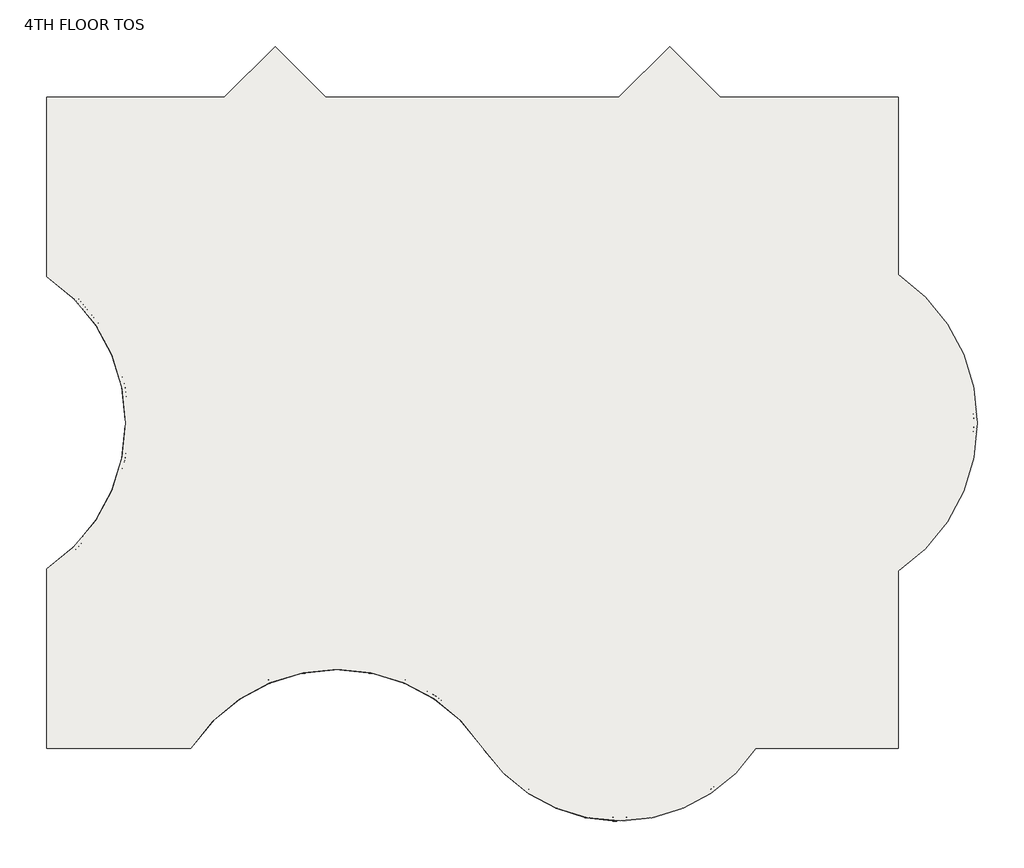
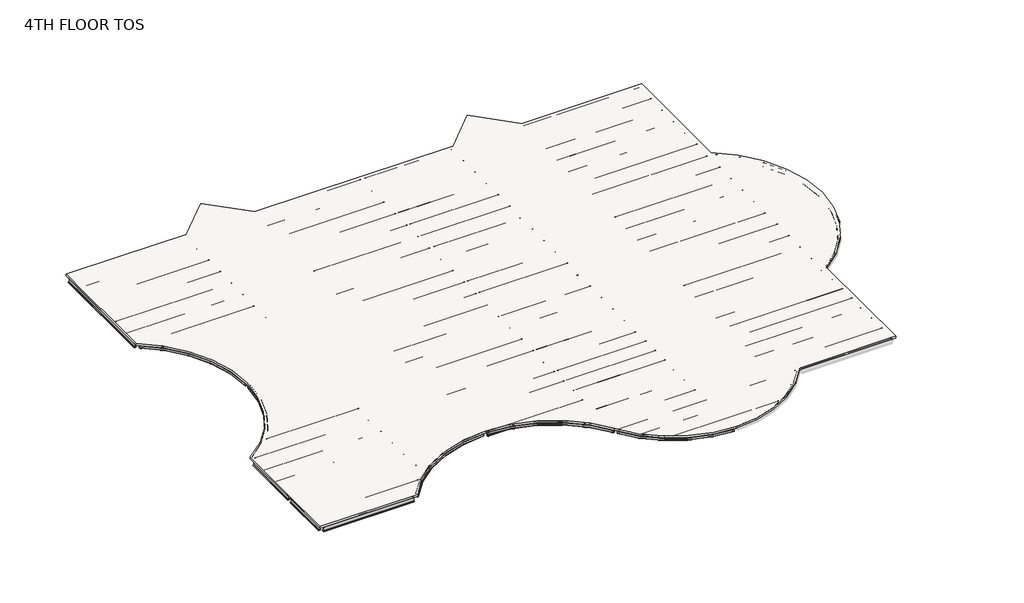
# One storey, part 1 of 2: 86 beams, 1 slab.
"""IFC4 building model written with IfcOpenShell, lengths in millimetres."""

from ifc_helpers import new_model, si_unit, frame, origin, place, context, project, spatial, polyline, circle_curve, transform, mapped, element, save
from ifc_brep_helpers import plane_surface, cylinder_surface, revolved_surface, advanced_brep
from components import m_hss_square_hss203_2x203_2x9_5_914ff4eb, m_hss_square_hss203_2x203_2x9_5_0e3d8e6e, m_hss_square_hss203_2x203_2x9_5_16dc1c03, m_hss_square_hss203_2x203_2x9_5_18346204, m_hss_square_hss203_2x203_2x9_5_d5f1e8c4, ub_universal_beams_ub254x102x28_4e7f3726, ub_universal_beams_ub305x165x40_c4d0385b, ub_universal_beams_ub305x165x40_d3abc31d, ub_universal_beams_ub305x165x40_0c73730f, ub_universal_beams_ub305x165x40_2a963f0c, ub_universal_beams_ub305x165x40_0a5f2f96, ub_universal_beams_ub305x165x40_d1f7c369, ub_universal_beams_ub305x165x40_83d7b7d5, ub_universal_beams_ub305x165x40_729a4ea5, ub_universal_beams_ub305x165x40_71dfa851, ub_universal_beams_ub305x165x40_619b5398, ub_universal_beams_ub305x165x40_c3492db1, ub_universal_beams_ub305x165x40_8f1c350d, ub_universal_beams_ub305x165x40_3afb5f90, ub_universal_beams_ub305x165x40_767d1929, ub_universal_beams_ub305x165x40_5941ca45, ub_universal_beams_ub356x171x51_ef72dcdd, ub_universal_beams_ub356x171x51_7f80702c, ub_universal_beams_ub356x171x51_dfc36663, ub_universal_beams_ub356x171x51_405a853e, ub_universal_beams_ub356x171x51_e47b7055, ub_universal_beams_ub356x171x51_e97f8d2e, ub_universal_beams_ub356x171x51_11d6b780, ub_universal_beams_ub356x171x51_76b2d20b, ub_universal_beams_ub356x171x51_145ecd4b, ub_universal_beams_ub356x171x51_c7dff8d2, ub_universal_beams_ub356x171x51_834c6e34, ub_universal_beams_ub356x171x51_a38b99de, ub_universal_beams_ub356x171x51_d8f4cdde, ub_universal_beams_ub356x171x51_8094f821, ub_universal_beams_ub356x171x51_e661f2e4, ub_universal_beams_ub356x171x51_3ee91673, ub_universal_beams_ub356x171x51_a871b283, ub_universal_beams_ub356x171x51_741bae58

model = new_model("IFC4")

# Units and contexts
model_context = context("Model", 3, world=origin())
ifc_project = project(units=[si_unit("LENGTHUNIT", "METRE", prefix="MILLI")], contexts=[model_context])

# Site, building, storey
site = spatial("IfcSite", under=ifc_project)
building = spatial("IfcBuilding", under=site)
storey = spatial("IfcBuildingStorey", under=building, Name="4TH FLOOR TOS", Elevation=18135.6)

# Beams
placement = place(None, origin())
m_hss_square_hss203_2x203_2x9_5_shape = m_hss_square_hss203_2x203_2x9_5_914ff4eb(model_context)
element("IfcBeam", 1, ObjectType="M_HSS Square : HSS203.2X203.2X9.5", at=placement, inside=storey, context=model_context, shape_type="MappedRepresentation", body=[
    mapped(m_hss_square_hss203_2x203_2x9_5_shape, transform((22710.575, 155.575, 18034.1), x_axis=(-0.552849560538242, 0.8332810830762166, 0.0), y_axis=(-0.8332810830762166, -0.552849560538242, 0.0), z_axis=(0.0, 0.0, 1.0))),
])
m_hss_square_hss203_2x203_2x9_5_2_shape = m_hss_square_hss203_2x203_2x9_5_0e3d8e6e(model_context)
element("IfcBeam", 2, ObjectType="M_HSS Square : HSS203.2X203.2X9.5", at=placement, inside=storey, context=model_context, shape_type="MappedRepresentation", body=[
    mapped(m_hss_square_hss203_2x203_2x9_5_2_shape, transform((155.575, 9299.575, 18034.1), x_axis=(0.8332810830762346, 0.5528495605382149, 0.0), y_axis=(-0.5528495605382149, 0.8332810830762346, 0.0), z_axis=(0.0, 0.0, 1.0))),
])
m_hss_square_hss203_2x203_2x9_5_3_shape = m_hss_square_hss203_2x203_2x9_5_16dc1c03(model_context)
element("IfcBeam", 3, ObjectType="M_HSS Square : HSS203.2X203.2X9.5", at=placement, inside=storey, context=model_context, shape_type="MappedRepresentation", body=[
    mapped(m_hss_square_hss203_2x203_2x9_5_3_shape, transform((155.575, 24539.575, 18034.1), x_axis=(0.8332810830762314, -0.5528495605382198, 0.0), y_axis=(0.5528495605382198, 0.8332810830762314, 0.0), z_axis=(0.0, 0.0, 1.0))),
])
m_hss_square_hss203_2x203_2x9_5_4_shape = m_hss_square_hss203_2x203_2x9_5_18346204(model_context)
element("IfcBeam", 4, ObjectType="M_HSS Square : HSS203.2X203.2X9.5", at=placement, inside=storey, context=model_context, shape_type="MappedRepresentation", body=[
    mapped(m_hss_square_hss203_2x203_2x9_5_4_shape, transform((29734.7266693, -3601.398624, 18034.1), x_axis=(-0.9999968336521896, -0.0025164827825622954, 0.0), y_axis=(0.0025164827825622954, -0.9999968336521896, 0.0), z_axis=(0.0, 0.0, 1.0))),
])
m_hss_square_hss203_2x203_2x9_5_5_shape = m_hss_square_hss203_2x203_2x9_5_d5f1e8c4(model_context)
element("IfcBeam", 5, ObjectType="M_HSS Square : HSS203.2X203.2X9.5", at=placement, inside=storey, context=model_context, shape_type="MappedRepresentation", body=[
    mapped(m_hss_square_hss203_2x203_2x9_5_5_shape, transform((15096.4572854, 4244.5731081, 18034.1), x_axis=(-0.9999997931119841, 0.0006432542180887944, 0.0), y_axis=(-0.0006432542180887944, -0.9999997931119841, 0.0), z_axis=(0.0, 0.0, 1.0))),
])
ub_universal_beams_ub254x102x28_shape = ub_universal_beams_ub254x102x28_4e7f3726(model_context)
element("IfcBeam", 6, ObjectType="UB-Universal Beams : UB254x102x28", at=placement, inside=storey, context=model_context, shape_type="MappedRepresentation", body=[
    mapped(ub_universal_beams_ub254x102x28_shape, transform((9299.575, 3210.915913, 18005.4), x_axis=(0.0, -1.0, 0.0), y_axis=(1.0, 0.0, 0.0), z_axis=(0.0, 0.0, 1.0))),
])
ub_universal_beams_ub305x165x40_shape = ub_universal_beams_ub305x165x40_c4d0385b(model_context)
element("IfcBeam", 7, ObjectType="UB-Universal Beams : UB305x165x40", at=placement, inside=storey, context=model_context, shape_type="MappedRepresentation", body=[
    mapped(ub_universal_beams_ub305x165x40_shape, transform((4727.575, 30635.575, 17983.9), x_axis=(1.0, 0.0, 0.0), y_axis=(0.0, 1.0, 0.0), z_axis=(0.0, 0.0, 1.0))),
])
element("IfcBeam", 8, ObjectType="UB-Universal Beams : UB305x165x40", at=placement, inside=storey, context=model_context, shape_type="MappedRepresentation", body=[
    mapped(ub_universal_beams_ub305x165x40_shape, transform((4727.575, 29111.575, 17983.9), x_axis=(1.0, 0.0, 0.0), y_axis=(0.0, 1.0, 0.0), z_axis=(0.0, 0.0, 1.0))),
])
element("IfcBeam", 9, ObjectType="UB-Universal Beams : UB305x165x40", at=placement, inside=storey, context=model_context, shape_type="MappedRepresentation", body=[
    mapped(ub_universal_beams_ub305x165x40_shape, transform((4727.575, 27587.575, 17983.9), x_axis=(1.0, 0.0, 0.0), y_axis=(0.0, 1.0, 0.0), z_axis=(0.0, 0.0, 1.0))),
])
element("IfcBeam", 10, ObjectType="UB-Universal Beams : UB305x165x40", at=placement, inside=storey, context=model_context, shape_type="MappedRepresentation", body=[
    mapped(ub_universal_beams_ub305x165x40_shape, transform((4727.575, 26063.575, 17983.9), x_axis=(1.0, 0.0, 0.0), y_axis=(0.0, 1.0, 0.0), z_axis=(0.0, 0.0, 1.0))),
])
element("IfcBeam", 11, ObjectType="UB-Universal Beams : UB305x165x40", at=placement, inside=storey, context=model_context, shape_type="MappedRepresentation", body=[
    mapped(ub_universal_beams_ub305x165x40_shape, transform((4727.575, 4727.575, 17983.9), x_axis=(-1.0, 0.0, 0.0), y_axis=(0.0, -1.0, 0.0), z_axis=(0.0, 0.0, 1.0))),
])
element("IfcBeam", 12, ObjectType="UB-Universal Beams : UB305x165x40", at=placement, inside=storey, context=model_context, shape_type="MappedRepresentation", body=[
    mapped(ub_universal_beams_ub305x165x40_shape, transform((4727.575, 6251.575, 17983.9), x_axis=(-1.0, 0.0, 0.0), y_axis=(0.0, -1.0, 0.0), z_axis=(0.0, 0.0, 1.0))),
])
element("IfcBeam", 13, ObjectType="UB-Universal Beams : UB305x165x40", at=placement, inside=storey, context=model_context, shape_type="MappedRepresentation", body=[
    mapped(ub_universal_beams_ub305x165x40_shape, transform((4727.575, 7775.575, 17983.9), x_axis=(-1.0, 0.0, 0.0), y_axis=(0.0, -1.0, 0.0), z_axis=(0.0, 0.0, 1.0))),
])
ub_universal_beams_ub305x165x40_2_shape = ub_universal_beams_ub305x165x40_d3abc31d(model_context)
element("IfcBeam", 14, ObjectType="UB-Universal Beams : UB305x165x40", at=placement, inside=storey, context=model_context, shape_type="MappedRepresentation", body=[
    mapped(ub_universal_beams_ub305x165x40_2_shape, transform((11885.575, 28938.325, 17983.9), x_axis=(1.0, 0.0, 0.0), y_axis=(0.0, 1.0, 0.0), z_axis=(0.0, 0.0, 1.0))),
])
element("IfcBeam", 15, ObjectType="UB-Universal Beams : UB305x165x40", at=placement, inside=storey, context=model_context, shape_type="MappedRepresentation", body=[
    mapped(ub_universal_beams_ub305x165x40_2_shape, transform((11885.575, 27472.075, 17983.9), x_axis=(1.0, 0.0, 0.0), y_axis=(0.0, 1.0, 0.0), z_axis=(0.0, 0.0, 1.0))),
])
element("IfcBeam", 16, ObjectType="UB-Universal Beams : UB305x165x40", at=placement, inside=storey, context=model_context, shape_type="MappedRepresentation", body=[
    mapped(ub_universal_beams_ub305x165x40_2_shape, transform((11885.575, 26005.825, 17983.9), x_axis=(1.0, 0.0, 0.0), y_axis=(0.0, 1.0, 0.0), z_axis=(0.0, 0.0, 1.0))),
])
element("IfcBeam", 17, ObjectType="UB-Universal Beams : UB305x165x40", at=placement, inside=storey, context=model_context, shape_type="MappedRepresentation", body=[
    mapped(ub_universal_beams_ub305x165x40_2_shape, transform((11885.575, 23015.575, 17983.9), x_axis=(1.0, 0.0, 0.0), y_axis=(0.0, 1.0, 0.0), z_axis=(0.0, 0.0, 1.0))),
])
element("IfcBeam", 18, ObjectType="UB-Universal Beams : UB305x165x40", at=placement, inside=storey, context=model_context, shape_type="MappedRepresentation", body=[
    mapped(ub_universal_beams_ub305x165x40_2_shape, transform((11885.575, 21491.575, 17983.9), x_axis=(1.0, 0.0, 0.0), y_axis=(0.0, 1.0, 0.0), z_axis=(0.0, 0.0, 1.0))),
])
element("IfcBeam", 19, ObjectType="UB-Universal Beams : UB305x165x40", at=placement, inside=storey, context=model_context, shape_type="MappedRepresentation", body=[
    mapped(ub_universal_beams_ub305x165x40_2_shape, transform((11885.575, 19967.575, 17983.9), x_axis=(1.0, 0.0, 0.0), y_axis=(0.0, 1.0, 0.0), z_axis=(0.0, 0.0, 1.0))),
])
element("IfcBeam", 20, ObjectType="UB-Universal Beams : UB305x165x40", at=placement, inside=storey, context=model_context, shape_type="MappedRepresentation", body=[
    mapped(ub_universal_beams_ub305x165x40_2_shape, transform((11885.575, 18443.575, 17983.9), x_axis=(1.0, 0.0, 0.0), y_axis=(0.0, 1.0, 0.0), z_axis=(0.0, 0.0, 1.0))),
])
element("IfcBeam", 21, ObjectType="UB-Universal Beams : UB305x165x40", at=placement, inside=storey, context=model_context, shape_type="MappedRepresentation", body=[
    mapped(ub_universal_beams_ub305x165x40_2_shape, transform((11885.575, 15395.575, 17983.9), x_axis=(1.0, 0.0, 0.0), y_axis=(0.0, 1.0, 0.0), z_axis=(0.0, 0.0, 1.0))),
])
element("IfcBeam", 22, ObjectType="UB-Universal Beams : UB305x165x40", at=placement, inside=storey, context=model_context, shape_type="MappedRepresentation", body=[
    mapped(ub_universal_beams_ub305x165x40_2_shape, transform((11885.575, 13871.575, 17983.9), x_axis=(1.0, 0.0, 0.0), y_axis=(0.0, 1.0, 0.0), z_axis=(0.0, 0.0, 1.0))),
])
element("IfcBeam", 23, ObjectType="UB-Universal Beams : UB305x165x40", at=placement, inside=storey, context=model_context, shape_type="MappedRepresentation", body=[
    mapped(ub_universal_beams_ub305x165x40_2_shape, transform((11885.575, 12347.575, 17983.9), x_axis=(1.0, 0.0, 0.0), y_axis=(0.0, 1.0, 0.0), z_axis=(0.0, 0.0, 1.0))),
])
element("IfcBeam", 24, ObjectType="UB-Universal Beams : UB305x165x40", at=placement, inside=storey, context=model_context, shape_type="MappedRepresentation", body=[
    mapped(ub_universal_beams_ub305x165x40_2_shape, transform((11885.575, 10823.575, 17983.9), x_axis=(1.0, 0.0, 0.0), y_axis=(0.0, 1.0, 0.0), z_axis=(0.0, 0.0, 1.0))),
])
element("IfcBeam", 25, ObjectType="UB-Universal Beams : UB305x165x40", at=placement, inside=storey, context=model_context, shape_type="MappedRepresentation", body=[
    mapped(ub_universal_beams_ub305x165x40_2_shape, transform((11885.575, 5026.1840956, 17983.9), x_axis=(-1.0, 0.0, 0.0), y_axis=(0.0, -1.0, 0.0), z_axis=(0.0, 0.0, 1.0))),
])
element("IfcBeam", 26, ObjectType="UB-Universal Beams : UB305x165x40", at=placement, inside=storey, context=model_context, shape_type="MappedRepresentation", body=[
    mapped(ub_universal_beams_ub305x165x40_2_shape, transform((11885.575, 6450.6477304, 17983.9), x_axis=(-1.0, 0.0, 0.0), y_axis=(0.0, -1.0, 0.0), z_axis=(0.0, 0.0, 1.0))),
])
element("IfcBeam", 27, ObjectType="UB-Universal Beams : UB305x165x40", at=placement, inside=storey, context=model_context, shape_type="MappedRepresentation", body=[
    mapped(ub_universal_beams_ub305x165x40_2_shape, transform((11885.575, 7875.1113652, 17983.9), x_axis=(-1.0, 0.0, 0.0), y_axis=(0.0, -1.0, 0.0), z_axis=(0.0, 0.0, 1.0))),
])
ub_universal_beams_ub305x165x40_3_shape = ub_universal_beams_ub305x165x40_0c73730f(model_context)
element("IfcBeam", 28, ObjectType="UB-Universal Beams : UB305x165x40", at=placement, inside=storey, context=model_context, shape_type="MappedRepresentation", body=[
    mapped(ub_universal_beams_ub305x165x40_3_shape, transform((18591.075, 5492.5943214, 17983.9), x_axis=(-1.0, 0.0, 0.0), y_axis=(0.0, -1.0, 0.0), z_axis=(0.0, 0.0, 1.0))),
])
element("IfcBeam", 29, ObjectType="UB-Universal Beams : UB305x165x40", at=placement, inside=storey, context=model_context, shape_type="MappedRepresentation", body=[
    mapped(ub_universal_beams_ub305x165x40_3_shape, transform((18591.075, 6761.5878809, 17983.9), x_axis=(-1.0, 0.0, 0.0), y_axis=(0.0, -1.0, 0.0), z_axis=(0.0, 0.0, 1.0))),
])
element("IfcBeam", 30, ObjectType="UB-Universal Beams : UB305x165x40", at=placement, inside=storey, context=model_context, shape_type="MappedRepresentation", body=[
    mapped(ub_universal_beams_ub305x165x40_3_shape, transform((18591.075, 8030.5814405, 17983.9), x_axis=(-1.0, 0.0, 0.0), y_axis=(0.0, -1.0, 0.0), z_axis=(0.0, 0.0, 1.0))),
])
element("IfcBeam", 31, ObjectType="UB-Universal Beams : UB305x165x40", at=placement, inside=storey, context=model_context, shape_type="MappedRepresentation", body=[
    mapped(ub_universal_beams_ub305x165x40_3_shape, transform((18591.075, 15395.575, 17983.9), x_axis=(1.0, 0.0, 0.0), y_axis=(0.0, 1.0, 0.0), z_axis=(0.0, 0.0, 1.0))),
])
element("IfcBeam", 32, ObjectType="UB-Universal Beams : UB305x165x40", at=placement, inside=storey, context=model_context, shape_type="MappedRepresentation", body=[
    mapped(ub_universal_beams_ub305x165x40_3_shape, transform((18591.075, 13871.575, 17983.9), x_axis=(1.0, 0.0, 0.0), y_axis=(0.0, 1.0, 0.0), z_axis=(0.0, 0.0, 1.0))),
])
element("IfcBeam", 33, ObjectType="UB-Universal Beams : UB305x165x40", at=placement, inside=storey, context=model_context, shape_type="MappedRepresentation", body=[
    mapped(ub_universal_beams_ub305x165x40_3_shape, transform((18591.075, 12347.575, 17983.9), x_axis=(1.0, 0.0, 0.0), y_axis=(0.0, 1.0, 0.0), z_axis=(0.0, 0.0, 1.0))),
])
element("IfcBeam", 34, ObjectType="UB-Universal Beams : UB305x165x40", at=placement, inside=storey, context=model_context, shape_type="MappedRepresentation", body=[
    mapped(ub_universal_beams_ub305x165x40_3_shape, transform((18591.075, 10823.575, 17983.9), x_axis=(1.0, 0.0, 0.0), y_axis=(0.0, 1.0, 0.0), z_axis=(0.0, 0.0, 1.0))),
])
ub_universal_beams_ub305x165x40_4_shape = ub_universal_beams_ub305x165x40_2a963f0c(model_context)
element("IfcBeam", 35, ObjectType="UB-Universal Beams : UB305x165x40", at=placement, inside=storey, context=model_context, shape_type="MappedRepresentation", body=[
    mapped(ub_universal_beams_ub305x165x40_4_shape, transform((26211.075, 15395.575, 17983.9), x_axis=(1.0, 0.0, 0.0), y_axis=(0.0, 1.0, 0.0), z_axis=(0.0, 0.0, 1.0))),
])
element("IfcBeam", 36, ObjectType="UB-Universal Beams : UB305x165x40", at=placement, inside=storey, context=model_context, shape_type="MappedRepresentation", body=[
    mapped(ub_universal_beams_ub305x165x40_4_shape, transform((26211.075, 13871.575, 17983.9), x_axis=(1.0, 0.0, 0.0), y_axis=(0.0, 1.0, 0.0), z_axis=(0.0, 0.0, 1.0))),
])
element("IfcBeam", 37, ObjectType="UB-Universal Beams : UB305x165x40", at=placement, inside=storey, context=model_context, shape_type="MappedRepresentation", body=[
    mapped(ub_universal_beams_ub305x165x40_4_shape, transform((26211.075, 12347.575, 17983.9), x_axis=(1.0, 0.0, 0.0), y_axis=(0.0, 1.0, 0.0), z_axis=(0.0, 0.0, 1.0))),
])
element("IfcBeam", 38, ObjectType="UB-Universal Beams : UB305x165x40", at=placement, inside=storey, context=model_context, shape_type="MappedRepresentation", body=[
    mapped(ub_universal_beams_ub305x165x40_4_shape, transform((26211.075, 10823.575, 17983.9), x_axis=(1.0, 0.0, 0.0), y_axis=(0.0, 1.0, 0.0), z_axis=(0.0, 0.0, 1.0))),
])
element("IfcBeam", 39, ObjectType="UB-Universal Beams : UB305x165x40", at=placement, inside=storey, context=model_context, shape_type="MappedRepresentation", body=[
    mapped(ub_universal_beams_ub305x165x40_4_shape, transform((26211.075, 5508.325, 17983.9), x_axis=(-1.0, 0.0, 0.0), y_axis=(0.0, -1.0, 0.0), z_axis=(0.0, 0.0, 1.0))),
])
element("IfcBeam", 40, ObjectType="UB-Universal Beams : UB305x165x40", at=placement, inside=storey, context=model_context, shape_type="MappedRepresentation", body=[
    mapped(ub_universal_beams_ub305x165x40_4_shape, transform((26211.075, 6772.075, 17983.9), x_axis=(-1.0, 0.0, 0.0), y_axis=(0.0, -1.0, 0.0), z_axis=(0.0, 0.0, 1.0))),
])
element("IfcBeam", 41, ObjectType="UB-Universal Beams : UB305x165x40", at=placement, inside=storey, context=model_context, shape_type="MappedRepresentation", body=[
    mapped(ub_universal_beams_ub305x165x40_4_shape, transform((26211.075, 8035.825, 17983.9), x_axis=(-1.0, 0.0, 0.0), y_axis=(0.0, -1.0, 0.0), z_axis=(0.0, 0.0, 1.0))),
])
element("IfcBeam", 42, ObjectType="UB-Universal Beams : UB305x165x40", at=placement, inside=storey, context=model_context, shape_type="MappedRepresentation", body=[
    mapped(ub_universal_beams_ub305x165x40_4_shape, transform((26211.075, 1518.575, 17983.9), x_axis=(-1.0, 0.0, 0.0), y_axis=(0.0, -1.0, 0.0), z_axis=(0.0, 0.0, 1.0))),
])
element("IfcBeam", 43, ObjectType="UB-Universal Beams : UB305x165x40", at=placement, inside=storey, context=model_context, shape_type="MappedRepresentation", body=[
    mapped(ub_universal_beams_ub305x165x40_4_shape, transform((26211.075, 2881.575, 17983.9), x_axis=(-1.0, 0.0, 0.0), y_axis=(0.0, -1.0, 0.0), z_axis=(0.0, 0.0, 1.0))),
])
ub_universal_beams_ub305x165x40_5_shape = ub_universal_beams_ub305x165x40_0a5f2f96(model_context)
element("IfcBeam", 44, ObjectType="UB-Universal Beams : UB305x165x40", at=placement, inside=storey, context=model_context, shape_type="MappedRepresentation", body=[
    mapped(ub_universal_beams_ub305x165x40_5_shape, transform((29713.575, -2349.0918253, 17983.9), x_axis=(-1.0, 0.0, 0.0), y_axis=(0.0, -1.0, 0.0), z_axis=(0.0, 0.0, 1.0))),
])
ub_universal_beams_ub305x165x40_6_shape = ub_universal_beams_ub305x165x40_d1f7c369(model_context)
element("IfcBeam", 45, ObjectType="UB-Universal Beams : UB305x165x40", at=placement, inside=storey, context=model_context, shape_type="MappedRepresentation", body=[
    mapped(ub_universal_beams_ub305x165x40_6_shape, transform((29713.575, -1096.7584126, 17983.9), x_axis=(-1.0, 0.0, 0.0), y_axis=(0.0, -1.0, 0.0), z_axis=(0.0, 0.0, 1.0))),
])
ub_universal_beams_ub305x165x40_7_shape = ub_universal_beams_ub305x165x40_83d7b7d5(model_context)
element("IfcBeam", 46, ObjectType="UB-Universal Beams : UB305x165x40", at=placement, inside=storey, context=model_context, shape_type="MappedRepresentation", body=[
    mapped(ub_universal_beams_ub305x165x40_7_shape, transform((22157.3041106, 1518.575, 17983.9), x_axis=(-1.0, 0.0, 0.0), y_axis=(0.0, -1.0, 0.0), z_axis=(0.0, 0.0, 1.0))),
])
ub_universal_beams_ub305x165x40_8_shape = ub_universal_beams_ub305x165x40_729a4ea5(model_context)
element("IfcBeam", 47, ObjectType="UB-Universal Beams : UB305x165x40", at=placement, inside=storey, context=model_context, shape_type="MappedRepresentation", body=[
    mapped(ub_universal_beams_ub305x165x40_8_shape, transform((21302.1545844, 2881.575, 17983.9), x_axis=(-1.0, 0.0, 0.0), y_axis=(0.0, -1.0, 0.0), z_axis=(0.0, 0.0, 1.0))),
])
ub_universal_beams_ub305x165x40_9_shape = ub_universal_beams_ub305x165x40_71dfa851(model_context)
element("IfcBeam", 48, ObjectType="UB-Universal Beams : UB305x165x40", at=placement, inside=storey, context=model_context, shape_type="MappedRepresentation", body=[
    mapped(ub_universal_beams_ub305x165x40_9_shape, transform((10511.0323166, 3601.7204608, 17983.9), x_axis=(-1.0, 0.0, 0.0), y_axis=(0.0, -1.0, 0.0), z_axis=(0.0, 0.0, 1.0))),
])
ub_universal_beams_ub305x165x40_10_shape = ub_universal_beams_ub305x165x40_619b5398(model_context)
element("IfcBeam", 49, ObjectType="UB-Universal Beams : UB305x165x40", at=placement, inside=storey, context=model_context, shape_type="MappedRepresentation", body=[
    mapped(ub_universal_beams_ub305x165x40_10_shape, transform((4447.6838282, 1679.575, 17983.9), x_axis=(-1.0, 0.0, 0.0), y_axis=(0.0, -1.0, 0.0), z_axis=(0.0, 0.0, 1.0))),
])
ub_universal_beams_ub305x165x40_11_shape = ub_universal_beams_ub305x165x40_c3492db1(model_context)
element("IfcBeam", 50, ObjectType="UB-Universal Beams : UB305x165x40", at=placement, inside=storey, context=model_context, shape_type="MappedRepresentation", body=[
    mapped(ub_universal_beams_ub305x165x40_11_shape, transform((4727.575, 3203.575, 17983.9), x_axis=(-1.0, 0.0, 0.0), y_axis=(0.0, -1.0, 0.0), z_axis=(0.0, 0.0, 1.0))),
])
ub_universal_beams_ub305x165x40_12_shape = ub_universal_beams_ub305x165x40_8f1c350d(model_context)
element("IfcBeam", 51, ObjectType="UB-Universal Beams : UB305x165x40", at=placement, inside=storey, context=model_context, shape_type="MappedRepresentation", body=[
    mapped(ub_universal_beams_ub305x165x40_12_shape, transform((6708.1318611, 15395.575, 17983.9), x_axis=(1.0, 0.0, 0.0), y_axis=(0.0, 1.0, 0.0), z_axis=(0.0, 0.0, 1.0))),
])
element("IfcBeam", 52, ObjectType="UB-Universal Beams : UB305x165x40", at=placement, inside=storey, context=model_context, shape_type="MappedRepresentation", body=[
    mapped(ub_universal_beams_ub305x165x40_12_shape, transform((6708.1318611, 18443.575, 17983.9), x_axis=(1.0, 0.0, 0.0), y_axis=(0.0, 1.0, 0.0), z_axis=(0.0, 0.0, 1.0))),
])
ub_universal_beams_ub305x165x40_13_shape = ub_universal_beams_ub305x165x40_3afb5f90(model_context)
element("IfcBeam", 53, ObjectType="UB-Universal Beams : UB305x165x40", at=placement, inside=storey, context=model_context, shape_type="MappedRepresentation", body=[
    mapped(ub_universal_beams_ub305x165x40_13_shape, transform((6510.6153272, 13871.575, 17983.9), x_axis=(1.0, 0.0, 0.0), y_axis=(0.0, 1.0, 0.0), z_axis=(0.0, 0.0, 1.0))),
])
element("IfcBeam", 54, ObjectType="UB-Universal Beams : UB305x165x40", at=placement, inside=storey, context=model_context, shape_type="MappedRepresentation", body=[
    mapped(ub_universal_beams_ub305x165x40_13_shape, transform((6510.6153272, 19967.575, 17983.9), x_axis=(1.0, 0.0, 0.0), y_axis=(0.0, 1.0, 0.0), z_axis=(0.0, 0.0, 1.0))),
])
ub_universal_beams_ub305x165x40_14_shape = ub_universal_beams_ub305x165x40_767d1929(model_context)
element("IfcBeam", 55, ObjectType="UB-Universal Beams : UB305x165x40", at=placement, inside=storey, context=model_context, shape_type="MappedRepresentation", body=[
    mapped(ub_universal_beams_ub305x165x40_14_shape, transform((6159.5874928, 12347.575, 17983.9), x_axis=(1.0, 0.0, 0.0), y_axis=(0.0, 1.0, 0.0), z_axis=(0.0, 0.0, 1.0))),
])
element("IfcBeam", 56, ObjectType="UB-Universal Beams : UB305x165x40", at=placement, inside=storey, context=model_context, shape_type="MappedRepresentation", body=[
    mapped(ub_universal_beams_ub305x165x40_14_shape, transform((6159.5874928, 21491.575, 17983.9), x_axis=(1.0, 0.0, 0.0), y_axis=(0.0, 1.0, 0.0), z_axis=(0.0, 0.0, 1.0))),
])
ub_universal_beams_ub305x165x40_15_shape = ub_universal_beams_ub305x165x40_5941ca45(model_context)
element("IfcBeam", 57, ObjectType="UB-Universal Beams : UB305x165x40", at=placement, inside=storey, context=model_context, shape_type="MappedRepresentation", body=[
    mapped(ub_universal_beams_ub305x165x40_15_shape, transform((5607.9405309, 10823.575, 17983.9), x_axis=(1.0, 0.0, 0.0), y_axis=(0.0, 1.0, 0.0), z_axis=(0.0, 0.0, 1.0))),
])
element("IfcBeam", 58, ObjectType="UB-Universal Beams : UB305x165x40", at=placement, inside=storey, context=model_context, shape_type="MappedRepresentation", body=[
    mapped(ub_universal_beams_ub305x165x40_15_shape, transform((5607.9405309, 23015.575, 17983.9), x_axis=(1.0, 0.0, 0.0), y_axis=(0.0, 1.0, 0.0), z_axis=(0.0, 0.0, 1.0))),
])
ub_universal_beams_ub356x171x51_shape = ub_universal_beams_ub356x171x51_ef72dcdd(model_context)
element("IfcBeam", 59, ObjectType="UB-Universal Beams : UB356x171x51", at=placement, inside=storey, context=model_context, shape_type="MappedRepresentation", body=[
    mapped(ub_universal_beams_ub356x171x51_shape, transform((9299.575, 6772.075, 17958.1), x_axis=(0.0, -1.0, 0.0), y_axis=(1.0, 0.0, 0.0), z_axis=(0.0, 0.0, 1.0))),
])
element("IfcBeam", 60, ObjectType="UB-Universal Beams : UB356x171x51", at=placement, inside=storey, context=model_context, shape_type="MappedRepresentation", body=[
    mapped(ub_universal_beams_ub356x171x51_shape, transform((29711.575, 6772.075, 17958.1), x_axis=(0.0, 1.0, 0.0), y_axis=(-1.0, 0.0, 0.0), z_axis=(0.0, 0.0, 1.0))),
])
element("IfcBeam", 61, ObjectType="UB-Universal Beams : UB356x171x51", at=placement, inside=storey, context=model_context, shape_type="MappedRepresentation", body=[
    mapped(ub_universal_beams_ub356x171x51_shape, transform((22710.575, 6772.075, 17958.1), x_axis=(0.0, -1.0, 0.0), y_axis=(1.0, 0.0, 0.0), z_axis=(0.0, 0.0, 1.0))),
])
ub_universal_beams_ub356x171x51_2_shape = ub_universal_beams_ub356x171x51_7f80702c(model_context)
element("IfcBeam", 62, ObjectType="UB-Universal Beams : UB356x171x51", at=placement, inside=storey, context=model_context, shape_type="MappedRepresentation", body=[
    mapped(ub_universal_beams_ub356x171x51_2_shape, transform((3813.075, 155.575, 17958.1), x_axis=(-1.0, 0.0, 0.0), y_axis=(0.0, -1.0, 0.0), z_axis=(0.0, 0.0, 1.0))),
])
ub_universal_beams_ub356x171x51_3_shape = ub_universal_beams_ub356x171x51_dfc36663(model_context)
element("IfcBeam", 63, ObjectType="UB-Universal Beams : UB356x171x51", at=placement, inside=storey, context=model_context, shape_type="MappedRepresentation", body=[
    mapped(ub_universal_beams_ub356x171x51_3_shape, transform((155.575, 2200.075, 17958.1), x_axis=(0.0, 1.0, 0.0), y_axis=(-1.0, 0.0, 0.0), z_axis=(0.0, 0.0, 1.0))),
])
ub_universal_beams_ub356x171x51_4_shape = ub_universal_beams_ub356x171x51_405a853e(model_context)
element("IfcBeam", 64, ObjectType="UB-Universal Beams : UB356x171x51", at=placement, inside=storey, context=model_context, shape_type="MappedRepresentation", body=[
    mapped(ub_universal_beams_ub356x171x51_4_shape, transform((155.575, 6772.075, 17958.1), x_axis=(0.0, 1.0, 0.0), y_axis=(-1.0, 0.0, 0.0), z_axis=(0.0, 0.0, 1.0))),
])
ub_universal_beams_ub356x171x51_5_shape = ub_universal_beams_ub356x171x51_e47b7055(model_context)
element("IfcBeam", 65, ObjectType="UB-Universal Beams : UB356x171x51", at=placement, inside=storey, context=model_context, shape_type="MappedRepresentation", body=[
    mapped(ub_universal_beams_ub356x171x51_5_shape, transform((155.575, 29111.575, 17958.1), x_axis=(0.0, 1.0, 0.0), y_axis=(-1.0, 0.0, 0.0), z_axis=(0.0, 0.0, 1.0))),
])
ub_universal_beams_ub356x171x51_6_shape = ub_universal_beams_ub356x171x51_e97f8d2e(model_context)
element("IfcBeam", 66, ObjectType="UB-Universal Beams : UB356x171x51", at=placement, inside=storey, context=model_context, shape_type="MappedRepresentation", body=[
    mapped(ub_universal_beams_ub356x171x51_6_shape, transform((4727.575, 24539.575, 17958.1), x_axis=(1.0, 0.0, 0.0), y_axis=(0.0, 1.0, 0.0), z_axis=(0.0, 0.0, 1.0))),
])
ub_universal_beams_ub356x171x51_7_shape = ub_universal_beams_ub356x171x51_11d6b780(model_context)
element("IfcBeam", 67, ObjectType="UB-Universal Beams : UB356x171x51", at=placement, inside=storey, context=model_context, shape_type="MappedRepresentation", body=[
    mapped(ub_universal_beams_ub356x171x51_7_shape, transform((11885.575, 24539.575, 17958.1), x_axis=(1.0, 0.0, 0.0), y_axis=(0.0, 1.0, 0.0), z_axis=(0.0, 0.0, 1.0))),
])
element("IfcBeam", 68, ObjectType="UB-Universal Beams : UB356x171x51", at=placement, inside=storey, context=model_context, shape_type="MappedRepresentation", body=[
    mapped(ub_universal_beams_ub356x171x51_7_shape, transform((11885.575, 9299.575, 17958.1), x_axis=(-1.0, 0.0, 0.0), y_axis=(0.0, -1.0, 0.0), z_axis=(0.0, 0.0, 1.0))),
])
element("IfcBeam", 69, ObjectType="UB-Universal Beams : UB356x171x51", at=placement, inside=storey, context=model_context, shape_type="MappedRepresentation", body=[
    mapped(ub_universal_beams_ub356x171x51_7_shape, transform((11885.575, 16919.575, 17958.1), x_axis=(1.0, 0.0, 0.0), y_axis=(0.0, 1.0, 0.0), z_axis=(0.0, 0.0, 1.0))),
])
ub_universal_beams_ub356x171x51_8_shape = ub_universal_beams_ub356x171x51_76b2d20b(model_context)
element("IfcBeam", 70, ObjectType="UB-Universal Beams : UB356x171x51", at=placement, inside=storey, context=model_context, shape_type="MappedRepresentation", body=[
    mapped(ub_universal_beams_ub356x171x51_8_shape, transform((18591.075, 9299.575, 17958.1), x_axis=(-1.0, 0.0, 0.0), y_axis=(0.0, -1.0, 0.0), z_axis=(0.0, 0.0, 1.0))),
])
ub_universal_beams_ub356x171x51_9_shape = ub_universal_beams_ub356x171x51_145ecd4b(model_context)
element("IfcBeam", 71, ObjectType="UB-Universal Beams : UB356x171x51", at=placement, inside=storey, context=model_context, shape_type="MappedRepresentation", body=[
    mapped(ub_universal_beams_ub356x171x51_9_shape, transform((26211.075, 9299.575, 17958.1), x_axis=(-1.0, 0.0, 0.0), y_axis=(0.0, -1.0, 0.0), z_axis=(0.0, 0.0, 1.0))),
])
element("IfcBeam", 72, ObjectType="UB-Universal Beams : UB356x171x51", at=placement, inside=storey, context=model_context, shape_type="MappedRepresentation", body=[
    mapped(ub_universal_beams_ub356x171x51_9_shape, transform((26211.075, 4244.575, 17958.1), x_axis=(-1.0, 0.0, 0.0), y_axis=(0.0, -1.0, 0.0), z_axis=(0.0, 0.0, 1.0))),
])
ub_universal_beams_ub356x171x51_10_shape = ub_universal_beams_ub356x171x51_c7dff8d2(model_context)
element("IfcBeam", 73, ObjectType="UB-Universal Beams : UB356x171x51", at=placement, inside=storey, context=model_context, shape_type="MappedRepresentation", body=[
    mapped(ub_universal_beams_ub356x171x51_10_shape, transform((4727.575, 9299.575, 17958.1), x_axis=(-1.0, 0.0, 0.0), y_axis=(0.0, -1.0, 0.0), z_axis=(0.0, 0.0, 1.0))),
])
ub_universal_beams_ub356x171x51_11_shape = ub_universal_beams_ub356x171x51_834c6e34(model_context)
element("IfcBeam", 74, ObjectType="UB-Universal Beams : UB356x171x51", at=placement, inside=storey, context=model_context, shape_type="MappedRepresentation", body=[
    mapped(ub_universal_beams_ub356x171x51_11_shape, transform((14471.575, 6761.5878809, 17958.1), x_axis=(0.0, -1.0, 0.0), y_axis=(1.0, 0.0, 0.0), z_axis=(0.0, 0.0, 1.0))),
])
ub_universal_beams_ub356x171x51_12_shape = ub_universal_beams_ub356x171x51_a38b99de(model_context)
element("IfcBeam", 75, ObjectType="UB-Universal Beams : UB356x171x51", at=placement, inside=storey, context=model_context, shape_type="MappedRepresentation", body=[
    mapped(ub_universal_beams_ub356x171x51_12_shape, transform((9299.575, 13109.575, 17958.1), x_axis=(0.0, 1.0, 0.0), y_axis=(-1.0, 0.0, 0.0), z_axis=(0.0, 0.0, 1.0))),
])
element("IfcBeam", 76, ObjectType="UB-Universal Beams : UB356x171x51", at=placement, inside=storey, context=model_context, shape_type="MappedRepresentation", body=[
    mapped(ub_universal_beams_ub356x171x51_12_shape, transform((9299.575, 20729.575, 17958.1), x_axis=(0.0, 1.0, 0.0), y_axis=(-1.0, 0.0, 0.0), z_axis=(0.0, 0.0, 1.0))),
])
element("IfcBeam", 77, ObjectType="UB-Universal Beams : UB356x171x51", at=placement, inside=storey, context=model_context, shape_type="MappedRepresentation", body=[
    mapped(ub_universal_beams_ub356x171x51_12_shape, transform((14471.575, 20729.575, 17958.1), x_axis=(0.0, -1.0, 0.0), y_axis=(1.0, 0.0, 0.0), z_axis=(0.0, 0.0, 1.0))),
])
element("IfcBeam", 78, ObjectType="UB-Universal Beams : UB356x171x51", at=placement, inside=storey, context=model_context, shape_type="MappedRepresentation", body=[
    mapped(ub_universal_beams_ub356x171x51_12_shape, transform((14471.575, 13109.575, 17958.1), x_axis=(0.0, -1.0, 0.0), y_axis=(1.0, 0.0, 0.0), z_axis=(0.0, 0.0, 1.0))),
])
element("IfcBeam", 79, ObjectType="UB-Universal Beams : UB356x171x51", at=placement, inside=storey, context=model_context, shape_type="MappedRepresentation", body=[
    mapped(ub_universal_beams_ub356x171x51_12_shape, transform((22710.575, 13109.575, 17958.1), x_axis=(0.0, -1.0, 0.0), y_axis=(1.0, 0.0, 0.0), z_axis=(0.0, 0.0, 1.0))),
])
element("IfcBeam", 80, ObjectType="UB-Universal Beams : UB356x171x51", at=placement, inside=storey, context=model_context, shape_type="MappedRepresentation", body=[
    mapped(ub_universal_beams_ub356x171x51_12_shape, transform((29711.575, 13109.575, 17958.1), x_axis=(0.0, 1.0, 0.0), y_axis=(-1.0, 0.0, 0.0), z_axis=(0.0, 0.0, 1.0))),
])
ub_universal_beams_ub356x171x51_13_shape = ub_universal_beams_ub356x171x51_d8f4cdde(model_context)
element("IfcBeam", 81, ObjectType="UB-Universal Beams : UB356x171x51", at=placement, inside=storey, context=model_context, shape_type="MappedRepresentation", body=[
    mapped(ub_universal_beams_ub356x171x51_13_shape, transform((9299.575, 29111.575, 17958.1), x_axis=(0.0, 1.0, 0.0), y_axis=(-1.0, 0.0, 0.0), z_axis=(0.0, 0.0, 1.0))),
])
ub_universal_beams_ub356x171x51_14_shape = ub_universal_beams_ub356x171x51_8094f821(model_context)
element("IfcBeam", 82, ObjectType="UB-Universal Beams : UB356x171x51", at=placement, inside=storey, context=model_context, shape_type="MappedRepresentation", body=[
    mapped(ub_universal_beams_ub356x171x51_14_shape, transform((6772.075, 16919.575, 17958.1), x_axis=(1.0, 0.0, 0.0), y_axis=(0.0, 1.0, 0.0), z_axis=(0.0, 0.0, 1.0))),
])
ub_universal_beams_ub356x171x51_15_shape = ub_universal_beams_ub356x171x51_e661f2e4(model_context)
element("IfcBeam", 83, ObjectType="UB-Universal Beams : UB356x171x51", at=placement, inside=storey, context=model_context, shape_type="MappedRepresentation", body=[
    mapped(ub_universal_beams_ub356x171x51_15_shape, transform((29713.575, 155.575, 17958.1), x_axis=(-1.0, 0.0, 0.0), y_axis=(0.0, -1.0, 0.0), z_axis=(0.0, 0.0, 1.0))),
])
ub_universal_beams_ub356x171x51_16_shape = ub_universal_beams_ub356x171x51_3ee91673(model_context)
element("IfcBeam", 84, ObjectType="UB-Universal Beams : UB356x171x51", at=placement, inside=storey, context=model_context, shape_type="MappedRepresentation", body=[
    mapped(ub_universal_beams_ub356x171x51_16_shape, transform((18900.575, 4244.575, 17958.1), x_axis=(-1.0, 0.0, 0.0), y_axis=(0.0, -1.0, 0.0), z_axis=(0.0, 0.0, 1.0))),
])
ub_universal_beams_ub356x171x51_17_shape = ub_universal_beams_ub356x171x51_a871b283(model_context)
element("IfcBeam", 85, ObjectType="UB-Universal Beams : UB356x171x51", at=placement, inside=storey, context=model_context, shape_type="MappedRepresentation", body=[
    mapped(ub_universal_beams_ub356x171x51_17_shape, transform((22710.575, 2200.075, 17958.1), x_axis=(0.0, -1.0, 0.0), y_axis=(1.0, 0.0, 0.0), z_axis=(0.0, 0.0, 1.0))),
])
ub_universal_beams_ub356x171x51_18_shape = ub_universal_beams_ub356x171x51_741bae58(model_context)
element("IfcBeam", 86, ObjectType="UB-Universal Beams : UB356x171x51", at=placement, inside=storey, context=model_context, shape_type="MappedRepresentation", body=[
    mapped(ub_universal_beams_ub356x171x51_18_shape, transform((29711.575, 2200.075, 17958.1), x_axis=(0.0, -1.0, 0.0), y_axis=(1.0, 0.0, 0.0), z_axis=(0.0, 0.0, 1.0))),
])

# Slab
element("IfcSlab", 87, ObjectType="152mm Concrete With 50mm Metal Deck", at=placement, inside=storey, context=model_context, shape_type="AdvancedBrep", body=[
    advanced_brep(
    [(69.575, 33769.575, 18135.6), (4244.575, 33769.575, 18135.6), (9263.9526336, 33769.575, 18135.6), (11885.575, 36391.1973664, 18135.6), (14507.1973664, 33769.575, 18135.6), (22710.575, 33769.575, 18135.6), (29675.9526336, 33769.575, 18135.6), (32297.575, 36391.1973664, 18135.6), (34919.1973664, 33769.575, 18135.6), (44113.575, 33769.575, 18135.6), (44113.575, 24585.5849139, 18135.6), (44113.575, 9253.5650861, 18135.6), (44113.575, 4244.575, 18135.6), (44113.575, 69.575, 18135.6), (36762.5616677, 69.575, 18135.6), (29734.9430869, -3687.3983517, 18135.6), (22638.9224102, 108.0154965, 18135.6), (15096.4019655, 4158.5731259, 18135.6), (7516.8644167, 69.575, 18135.6), (69.575, 69.575, 18135.6), (69.575, 4244.575, 18135.6), (69.575, 9345.8644167, 18135.6), (69.575, 24493.2855833, 18135.6), (69.575, 33769.575, 18287.6), (69.575, 24493.2855833, 18287.6), (69.575, 9345.8644167, 18287.6), (69.575, 4244.575, 18287.6), (69.575, 69.575, 18287.6), (7516.8644167, 69.575, 18287.6), (15096.4019655, 4158.5731259, 18287.6), (22638.9128269, 108.0299378, 18287.6), (29734.9430869, -3687.3983517, 18287.6), (36762.5616677, 69.575, 18287.6), (44113.575, 69.575, 18287.6), (44113.575, 4244.575, 18287.6), (44113.575, 9253.5650861, 18287.6), (44113.575, 24585.5849139, 18287.6), (44113.575, 33769.575, 18287.6), (34919.1973664, 33769.575, 18287.6), (32297.575, 36391.1973664, 18287.6), (29675.9526336, 33769.575, 18287.6), (22710.575, 33769.575, 18287.6), (14507.1973664, 33769.575, 18287.6), (11885.575, 36391.1973664, 18287.6), (9263.9526336, 33769.575, 18287.6), (4244.575, 33769.575, 18287.6)],
    [
        (0, 1),
        (1, 2),
        (2, 3),
        (3, 4),
        (4, 5),
        (5, 6),
        (6, 7),
        (7, 8),
        (8, 9),
        (9, 10),
        (10, 11, circle_curve(frame((38972.0016324, 16919.575, 18135.6), z_axis=(0.0, 0.0, -1.0), x_axis=(1.0, 0.0, 0.0)), 9230.5733676)),
        (11, 12),
        (12, 13),
        (13, 14),
        (14, 15, circle_curve(frame((29713.575, 4803.825732, 18135.6), z_axis=(0.0, 0.0, -1.0), x_axis=(1.0, 0.0, 0.0)), 8491.2509699)),
        (15, 16, circle_curve(frame((29713.575, 4803.825732, 18135.6), z_axis=(0.0, 0.0, -1.0), x_axis=(1.0, 0.0, 0.0)), 8491.2509699)),
        (16, 17, circle_curve(frame((15090.575, -4899.9983676, 18135.6), z_axis=(0.0, 0.0, 1.0), x_axis=(1.0, 0.0, 0.0)), 9058.5733676)),
        (17, 18, circle_curve(frame((15090.575, -4899.9983676, 18135.6), z_axis=(0.0, 0.0, 1.0), x_axis=(1.0, 0.0, 0.0)), 9058.5733676)),
        (18, 19),
        (19, 20),
        (20, 21),
        (21, 22, circle_curve(frame((-4899.9983676, 16919.575, 18135.6), z_axis=(0.0, 0.0, 1.0), x_axis=(1.0, 0.0, 0.0)), 9058.5733676)),
        (22, 0),
        (23, 24),
        (24, 25, circle_curve(frame((-4899.9983676, 16919.575, 18287.6), z_axis=(0.0, 0.0, -1.0), x_axis=(1.0, 0.0, 0.0)), 9058.5733676)),
        (25, 26),
        (26, 27),
        (27, 28),
        (28, 29, circle_curve(frame((15090.575, -4899.9983676, 18287.6), z_axis=(0.0, 0.0, -1.0), x_axis=(1.0, 0.0, 0.0)), 9058.5733676)),
        (29, 30, circle_curve(frame((15090.575, -4899.9983676, 18287.6), z_axis=(0.0, 0.0, -1.0), x_axis=(1.0, 0.0, 0.0)), 9058.5733676)),
        (30, 31, circle_curve(frame((29713.575, 4803.825732, 18287.6), z_axis=(0.0, 0.0, 1.0), x_axis=(1.0, 0.0, 0.0)), 8491.2509699)),
        (31, 32, circle_curve(frame((29713.575, 4803.825732, 18287.6), z_axis=(0.0, 0.0, 1.0), x_axis=(1.0, 0.0, 0.0)), 8491.2509699)),
        (32, 33),
        (33, 34),
        (34, 35),
        (35, 36, circle_curve(frame((38972.0016324, 16919.575, 18287.6), z_axis=(0.0, 0.0, 1.0), x_axis=(1.0, 0.0, 0.0)), 9230.5733676)),
        (36, 37),
        (37, 38),
        (38, 39),
        (39, 40),
        (40, 41),
        (41, 42),
        (42, 43),
        (43, 44),
        (44, 45),
        (45, 23),
        (0, 23),
        (45, 1),
        (44, 2),
        (43, 3),
        (42, 4),
        (41, 5),
        (40, 6),
        (39, 7),
        (38, 8),
        (37, 9),
        (36, 10),
        (35, 11),
        (34, 12),
        (33, 13),
        (32, 14),
        (31, 15),
        (30, 16),
        (29, 17),
        (28, 18),
        (27, 19),
        (26, 20),
        (25, 21),
        (24, 22),
    ],
    [
        plane_surface(frame((155.575, 33769.575, 18135.6), z_axis=(0.0, 0.0, -1.0), x_axis=(1.0, 0.0, 0.0))),
        plane_surface(frame((155.575, 33769.575, 18287.6), z_axis=(0.0, 0.0, 1.0), x_axis=(-1.0, 0.0, 0.0))),
        plane_surface(frame((69.575, 33769.575, 18135.6), z_axis=(0.0, 1.0, 0.0), x_axis=(0.0, 0.0, 1.0))),
        plane_surface(frame((4244.575, 33769.575, 18135.6), z_axis=(0.0, 1.0, 0.0), x_axis=(0.0, 0.0, 1.0))),
        plane_surface(frame((9263.9526336, 33769.575, 18135.6), z_axis=(-0.7071067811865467, 0.7071067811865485, 0.0), x_axis=(0.0, 0.0, 1.0))),
        plane_surface(frame((11885.575, 36391.1973664, 18135.6), z_axis=(0.7071067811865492, 0.7071067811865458, 0.0), x_axis=(0.0, 0.0, 1.0))),
        plane_surface(frame((14507.1973664, 33769.575, 18135.6), z_axis=(0.0, 1.0, 0.0), x_axis=(0.0, 0.0, 1.0))),
        plane_surface(frame((22710.575, 33769.575, 18135.6), z_axis=(0.0, 1.0, 0.0), x_axis=(0.0, 0.0, 1.0))),
        plane_surface(frame((29675.9526336, 33769.575, 18135.6), z_axis=(-0.7071067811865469, 0.7071067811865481, 0.0), x_axis=(0.0, 0.0, 1.0))),
        plane_surface(frame((32297.575, 36391.1973664, 18135.6), z_axis=(0.7071067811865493, 0.7071067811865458, 0.0), x_axis=(0.0, 0.0, 1.0))),
        plane_surface(frame((34919.1973664, 33769.575, 18135.6), z_axis=(0.0, 1.0, 0.0), x_axis=(0.0, 0.0, 1.0))),
        plane_surface(frame((44113.575, 33769.575, 18135.6), z_axis=(1.0, 0.0, 0.0), x_axis=(0.0, 0.0, 1.0))),
        cylinder_surface(frame((38972.0016324, 16919.575, 18287.6), z_axis=(0.0, 0.0, -1.0), x_axis=(1.0, 0.0, 0.0)), 9230.5733676),
        plane_surface(frame((44113.575, 9253.5650861, 18135.6), z_axis=(1.0, 0.0, 0.0), x_axis=(0.0, 0.0, 1.0))),
        plane_surface(frame((44113.575, 4244.575, 18135.6), z_axis=(1.0, 0.0, 0.0), x_axis=(0.0, 0.0, 1.0))),
        plane_surface(frame((44113.575, 69.575, 18135.6), z_axis=(0.0, -1.0, 0.0), x_axis=(0.0, 0.0, 1.0))),
        cylinder_surface(frame((29713.575, 4803.825732, 18287.6), z_axis=(0.0, 0.0, -1.0), x_axis=(1.0, 0.0, 0.0)), 8491.2509699),
        revolved_surface(polyline([(24149.1483676, -4899.9983676, 18287.6), (24149.1483676, -4899.9983676, 18135.6)]), (15090.575, -4899.9983676, 18287.6), (0.0, 0.0, 1.0)),
        plane_surface(frame((7516.8644167, 69.575, 18135.6), z_axis=(0.0, -1.0, 0.0), x_axis=(0.0, 0.0, 1.0))),
        plane_surface(frame((69.575, 69.575, 18135.6), z_axis=(-1.0, 0.0, 0.0), x_axis=(0.0, 0.0, 1.0))),
        plane_surface(frame((69.575, 4244.575, 18135.6), z_axis=(-1.0, 0.0, 0.0), x_axis=(0.0, 0.0, 1.0))),
        revolved_surface(polyline([(4158.575, 16919.575, 18287.6), (4158.575, 16919.575, 18135.6)]), (-4899.9983676, 16919.575, 18287.6), (0.0, 0.0, 1.0)),
        plane_surface(frame((69.575, 24493.2855833, 18135.6), z_axis=(-1.0, 0.0, 0.0), x_axis=(0.0, 0.0, 1.0))),
    ],
    [
        (0, [[1, 2, 3, 4, 5, 6, 7, 8, 9, 10, 11, 12, 13, 14, 15, 16, 17, 18, 19, 20, 21, 22, 23]]),
        (1, [[24, 25, 26, 27, 28, 29, 30, 31, 32, 33, 34, 35, 36, 37, 38, 39, 40, 41, 42, 43, 44, 45, 46]]),
        (2, [[-1, 47, -46, 48]]),
        (3, [[-2, -48, -45, 49]]),
        (4, [[-3, -49, -44, 50]]),
        (5, [[-4, -50, -43, 51]]),
        (6, [[-5, -51, -42, 52]]),
        (7, [[-6, -52, -41, 53]]),
        (8, [[-7, -53, -40, 54]]),
        (9, [[-8, -54, -39, 55]]),
        (10, [[-9, -55, -38, 56]]),
        (11, [[-10, -56, -37, 57]]),
        (12, [[-11, -57, -36, 58]]),
        (13, [[-12, -58, -35, 59]]),
        (14, [[-13, -59, -34, 60]]),
        (15, [[-14, -60, -33, 61]]),
        (16, [[-15, -61, -32, 62]]),
        (16, [[-16, -62, -31, 63]]),
        (17, [[-17, -63, -30, 64]]),
        (17, [[-18, -64, -29, 65]]),
        (18, [[-19, -65, -28, 66]]),
        (19, [[-20, -66, -27, 67]]),
        (20, [[-21, -67, -26, 68]]),
        (21, [[-22, -68, -25, 69]]),
        (22, [[-23, -69, -24, -47]]),
    ],
),
])

save(model, "model.ifc")
